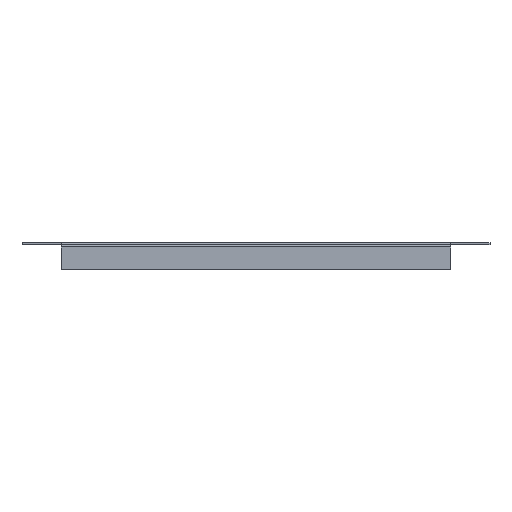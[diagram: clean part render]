
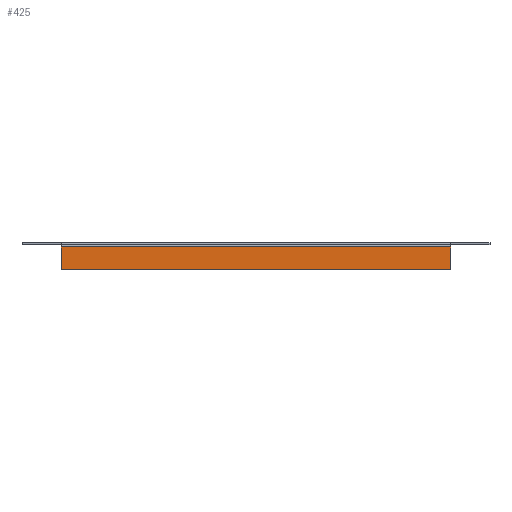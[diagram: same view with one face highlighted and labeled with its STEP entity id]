
A CAD part, front view. The second image highlights one B-rep face of the part: STEP entity #425.
In plain terms, the highlighted planar face has unit normal (0, -1, 0).
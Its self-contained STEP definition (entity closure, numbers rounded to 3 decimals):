
#6 = DIRECTION ( 'NONE',  ( -1., 0., 0. ) ) ;
#22 = ORIENTED_EDGE ( 'NONE', *, *, #1714, .F. ) ;
#70 = CARTESIAN_POINT ( 'NONE',  ( 110.2, -299.5, -13.8 ) ) ;
#86 = AXIS2_PLACEMENT_3D ( 'NONE', #448, #1692, #901 ) ;
#166 = DIRECTION ( 'NONE',  ( 0., 0., 1. ) ) ;
#238 = ORIENTED_EDGE ( 'NONE', *, *, #1314, .F. ) ;
#337 = CARTESIAN_POINT ( 'NONE',  ( -110.2, -299.5, -13.8 ) ) ;
#387 = VERTEX_POINT ( 'NONE', #438 ) ;
#410 = CARTESIAN_POINT ( 'NONE',  ( 110.2, -299.5, -1.2 ) ) ;
#425 = ADVANCED_FACE ( 'NONE', ( #1446 ), #1564, .F. ) ;
#437 = ORIENTED_EDGE ( 'NONE', *, *, #1568, .F. ) ;
#438 = CARTESIAN_POINT ( 'NONE',  ( -110.2, -299.5, -1.2 ) ) ;
#448 = CARTESIAN_POINT ( 'NONE',  ( 110.2, -299.5, 0. ) ) ;
#813 = CARTESIAN_POINT ( 'NONE',  ( 110.2, -299.5, -13.8 ) ) ;
#828 = VERTEX_POINT ( 'NONE', #1549 ) ;
#852 = CARTESIAN_POINT ( 'NONE',  ( 110.2, -299.5, 0. ) ) ;
#901 = DIRECTION ( 'NONE',  ( 0., 0., 1. ) ) ;
#963 = VECTOR ( 'NONE', #985, 1000. ) ;
#974 = VERTEX_POINT ( 'NONE', #70 ) ;
#978 = EDGE_LOOP ( 'NONE', ( #437, #238, #1315, #22 ) ) ;
#985 = DIRECTION ( 'NONE',  ( 0., 0., -1. ) ) ;
#994 = VERTEX_POINT ( 'NONE', #337 ) ;
#1186 = EDGE_CURVE ( 'NONE', #974, #994, #1508, .T. ) ;
#1217 = LINE ( 'NONE', #1524, #1243 ) ;
#1225 = DIRECTION ( 'NONE',  ( 1., 0., 0. ) ) ;
#1243 = VECTOR ( 'NONE', #166, 1000. ) ;
#1314 = EDGE_CURVE ( 'NONE', #994, #387, #1217, .T. ) ;
#1315 = ORIENTED_EDGE ( 'NONE', *, *, #1186, .F. ) ;
#1321 = VECTOR ( 'NONE', #1225, 1000. ) ;
#1336 = LINE ( 'NONE', #410, #1321 ) ;
#1417 = LINE ( 'NONE', #852, #963 ) ;
#1446 = FACE_OUTER_BOUND ( 'NONE', #978, .T. ) ;
#1508 = LINE ( 'NONE', #813, #1633 ) ;
#1524 = CARTESIAN_POINT ( 'NONE',  ( -110.2, -299.5, -13.8 ) ) ;
#1549 = CARTESIAN_POINT ( 'NONE',  ( 110.2, -299.5, -1.2 ) ) ;
#1564 = PLANE ( 'NONE',  #86 ) ;
#1568 = EDGE_CURVE ( 'NONE', #387, #828, #1336, .T. ) ;
#1633 = VECTOR ( 'NONE', #6, 1000. ) ;
#1692 = DIRECTION ( 'NONE',  ( 0., 1., 0. ) ) ;
#1714 = EDGE_CURVE ( 'NONE', #828, #974, #1417, .T. ) ;
